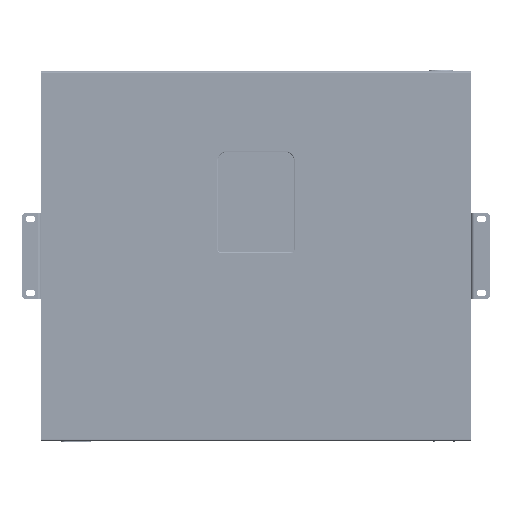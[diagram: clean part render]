
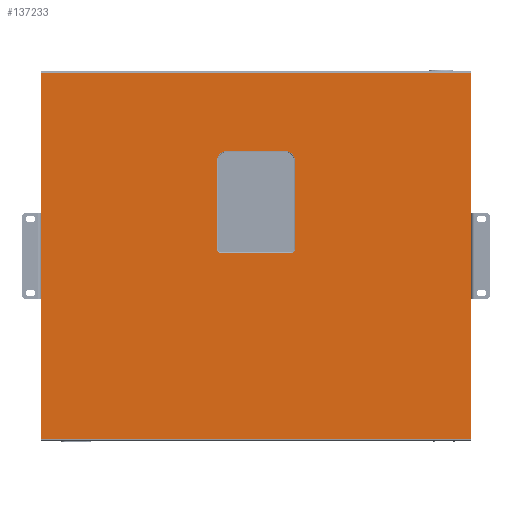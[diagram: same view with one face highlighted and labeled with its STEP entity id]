
A CAD part, front view. The second image highlights one B-rep face of the part: STEP entity #137233.
In plain terms, the highlighted planar face has unit normal (0, -1, 0).
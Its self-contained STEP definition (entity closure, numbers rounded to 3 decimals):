
#6257 = DIRECTION ( 'NONE',  ( 1., 0., 0. ) ) ;
#7505 = LINE ( 'NONE', #157576, #171176 ) ;
#9526 = EDGE_LOOP ( 'NONE', ( #154800, #224494, #217770, #28611, #131613, #229603, #182919, #18163 ) ) ;
#9804 = VERTEX_POINT ( 'NONE', #208953 ) ;
#12105 = CIRCLE ( 'NONE', #150765, 4.018 ) ;
#14587 = CIRCLE ( 'NONE', #81913, 9.018 ) ;
#17927 = CARTESIAN_POINT ( 'NONE',  ( -31., 0., -91.5 ) ) ;
#18163 = ORIENTED_EDGE ( 'NONE', *, *, #167550, .T. ) ;
#18906 = CARTESIAN_POINT ( 'NONE',  ( -221.5, 0., -1.6 ) ) ;
#19659 = EDGE_CURVE ( 'NONE', #150839, #231392, #194876, .T. ) ;
#21262 = EDGE_LOOP ( 'NONE', ( #151822, #27588, #112740, #117325 ) ) ;
#25247 = EDGE_CURVE ( 'NONE', #146943, #201626, #14587, .T. ) ;
#27588 = ORIENTED_EDGE ( 'NONE', *, *, #19659, .T. ) ;
#28611 = ORIENTED_EDGE ( 'NONE', *, *, #189055, .T. ) ;
#29802 = CARTESIAN_POINT ( 'NONE',  ( 31., 0., -82.482 ) ) ;
#33282 = CARTESIAN_POINT ( 'NONE',  ( 221.5, 0., -379.4 ) ) ;
#37597 = CARTESIAN_POINT ( 'NONE',  ( 40.018, 0., -183.5 ) ) ;
#41057 = VERTEX_POINT ( 'NONE', #211777 ) ;
#44354 = AXIS2_PLACEMENT_3D ( 'NONE', #235373, #82861, #101451 ) ;
#45161 = CARTESIAN_POINT ( 'NONE',  ( -221.5, 0., -379.4 ) ) ;
#46039 = VECTOR ( 'NONE', #190804, 1000. ) ;
#53920 = CARTESIAN_POINT ( 'NONE',  ( -36., 0., -183.5 ) ) ;
#60576 = FACE_BOUND ( 'NONE', #9526, .T. ) ;
#68482 = LINE ( 'NONE', #160333, #186089 ) ;
#70398 = VERTEX_POINT ( 'NONE', #190876 ) ;
#71961 = CARTESIAN_POINT ( 'NONE',  ( -31., 0., -82.482 ) ) ;
#73774 = CARTESIAN_POINT ( 'NONE',  ( 36., 0., -183.5 ) ) ;
#76200 = AXIS2_PLACEMENT_3D ( 'NONE', #17927, #97241, #227520 ) ;
#77369 = DIRECTION ( 'NONE',  ( 0., 1., 0. ) ) ;
#80646 = CARTESIAN_POINT ( 'NONE',  ( 0., 0., -379.4 ) ) ;
#81913 = AXIS2_PLACEMENT_3D ( 'NONE', #222719, #88726, #93654 ) ;
#82861 = DIRECTION ( 'NONE',  ( 0., 1., 0. ) ) ;
#88726 = DIRECTION ( 'NONE',  ( 0., 1., 0. ) ) ;
#89559 = CARTESIAN_POINT ( 'NONE',  ( 40.018, 0., -183.5 ) ) ;
#93654 = DIRECTION ( 'NONE',  ( 0., 0., 1. ) ) ;
#96386 = CARTESIAN_POINT ( 'NONE',  ( 0., 0., -1.6 ) ) ;
#97241 = DIRECTION ( 'NONE',  ( 0., 1., 0. ) ) ;
#99781 = CIRCLE ( 'NONE', #111570, 4.018 ) ;
#101451 = DIRECTION ( 'NONE',  ( 0., 0., 1. ) ) ;
#102900 = DIRECTION ( 'NONE',  ( 0., 0., 1. ) ) ;
#104755 = EDGE_CURVE ( 'NONE', #207836, #175294, #206923, .T. ) ;
#111570 = AXIS2_PLACEMENT_3D ( 'NONE', #73774, #149430, #225125 ) ;
#112740 = ORIENTED_EDGE ( 'NONE', *, *, #144823, .F. ) ;
#113069 = VECTOR ( 'NONE', #6257, 1000. ) ;
#117325 = ORIENTED_EDGE ( 'NONE', *, *, #104755, .T. ) ;
#122142 = EDGE_CURVE ( 'NONE', #150839, #175294, #7505, .T. ) ;
#128558 = VECTOR ( 'NONE', #181164, 1000. ) ;
#130090 = CARTESIAN_POINT ( 'NONE',  ( 31., 0., -82.482 ) ) ;
#131613 = ORIENTED_EDGE ( 'NONE', *, *, #185285, .T. ) ;
#134027 = CARTESIAN_POINT ( 'NONE',  ( 221.5, 0., -1.6 ) ) ;
#137233 = ADVANCED_FACE ( 'NONE', ( #60576, #211984 ), #175937, .F. ) ;
#139380 = CARTESIAN_POINT ( 'NONE',  ( 221.5, 0., -381. ) ) ;
#141982 = VECTOR ( 'NONE', #181909, 1000. ) ;
#144823 = EDGE_CURVE ( 'NONE', #207836, #231392, #179087, .T. ) ;
#146943 = VERTEX_POINT ( 'NONE', #130090 ) ;
#149430 = DIRECTION ( 'NONE',  ( 0., 1., 0. ) ) ;
#150765 = AXIS2_PLACEMENT_3D ( 'NONE', #53920, #77369, #153088 ) ;
#150839 = VERTEX_POINT ( 'NONE', #45161 ) ;
#151822 = ORIENTED_EDGE ( 'NONE', *, *, #122142, .F. ) ;
#153088 = DIRECTION ( 'NONE',  ( 0., 0., 1. ) ) ;
#154800 = ORIENTED_EDGE ( 'NONE', *, *, #170343, .T. ) ;
#157576 = CARTESIAN_POINT ( 'NONE',  ( -221.5, 0., -381. ) ) ;
#160200 = VERTEX_POINT ( 'NONE', #71961 ) ;
#160333 = CARTESIAN_POINT ( 'NONE',  ( -36., 0., -187.518 ) ) ;
#164062 = VECTOR ( 'NONE', #235966, 1000. ) ;
#167550 = EDGE_CURVE ( 'NONE', #175531, #160200, #191087, .T. ) ;
#170343 = EDGE_CURVE ( 'NONE', #160200, #146943, #199905, .T. ) ;
#171176 = VECTOR ( 'NONE', #102900, 1000. ) ;
#173626 = EDGE_CURVE ( 'NONE', #9804, #175531, #200672, .T. ) ;
#175294 = VERTEX_POINT ( 'NONE', #18906 ) ;
#175531 = VERTEX_POINT ( 'NONE', #230605 ) ;
#175937 = PLANE ( 'NONE',  #44354 ) ;
#179087 = LINE ( 'NONE', #139380, #46039 ) ;
#181164 = DIRECTION ( 'NONE',  ( 1., 0., 0. ) ) ;
#181909 = DIRECTION ( 'NONE',  ( 0., 0., 1. ) ) ;
#182919 = ORIENTED_EDGE ( 'NONE', *, *, #173626, .T. ) ;
#185285 = EDGE_CURVE ( 'NONE', #70398, #41057, #68482, .T. ) ;
#186089 = VECTOR ( 'NONE', #217494, 1000. ) ;
#188329 = EDGE_CURVE ( 'NONE', #41057, #9804, #12105, .T. ) ;
#189055 = EDGE_CURVE ( 'NONE', #225251, #70398, #99781, .T. ) ;
#190804 = DIRECTION ( 'NONE',  ( 0., 0., -1. ) ) ;
#190876 = CARTESIAN_POINT ( 'NONE',  ( 36., 0., -187.518 ) ) ;
#191087 = CIRCLE ( 'NONE', #76200, 9.018 ) ;
#194876 = LINE ( 'NONE', #80646, #113069 ) ;
#199905 = LINE ( 'NONE', #29802, #128558 ) ;
#200672 = LINE ( 'NONE', #223735, #141982 ) ;
#201370 = LINE ( 'NONE', #89559, #164062 ) ;
#201626 = VERTEX_POINT ( 'NONE', #214459 ) ;
#206923 = LINE ( 'NONE', #96386, #242995 ) ;
#207836 = VERTEX_POINT ( 'NONE', #134027 ) ;
#208953 = CARTESIAN_POINT ( 'NONE',  ( -40.018, 0., -183.5 ) ) ;
#211777 = CARTESIAN_POINT ( 'NONE',  ( -36., 0., -187.518 ) ) ;
#211984 = FACE_OUTER_BOUND ( 'NONE', #21262, .T. ) ;
#214459 = CARTESIAN_POINT ( 'NONE',  ( 40.018, 0., -91.5 ) ) ;
#217494 = DIRECTION ( 'NONE',  ( -1., 0., 0. ) ) ;
#217770 = ORIENTED_EDGE ( 'NONE', *, *, #238247, .T. ) ;
#222719 = CARTESIAN_POINT ( 'NONE',  ( 31., 0., -91.5 ) ) ;
#223735 = CARTESIAN_POINT ( 'NONE',  ( -40.018, 0., -91.5 ) ) ;
#224494 = ORIENTED_EDGE ( 'NONE', *, *, #25247, .T. ) ;
#225125 = DIRECTION ( 'NONE',  ( 0., 0., 1. ) ) ;
#225251 = VERTEX_POINT ( 'NONE', #37597 ) ;
#226661 = DIRECTION ( 'NONE',  ( -1., 0., 0. ) ) ;
#227520 = DIRECTION ( 'NONE',  ( 0., 0., 1. ) ) ;
#229603 = ORIENTED_EDGE ( 'NONE', *, *, #188329, .T. ) ;
#230605 = CARTESIAN_POINT ( 'NONE',  ( -40.018, 0., -91.5 ) ) ;
#231392 = VERTEX_POINT ( 'NONE', #33282 ) ;
#235373 = CARTESIAN_POINT ( 'NONE',  ( 0., 0., 0. ) ) ;
#235966 = DIRECTION ( 'NONE',  ( 0., 0., -1. ) ) ;
#238247 = EDGE_CURVE ( 'NONE', #201626, #225251, #201370, .T. ) ;
#242995 = VECTOR ( 'NONE', #226661, 1000. ) ;
